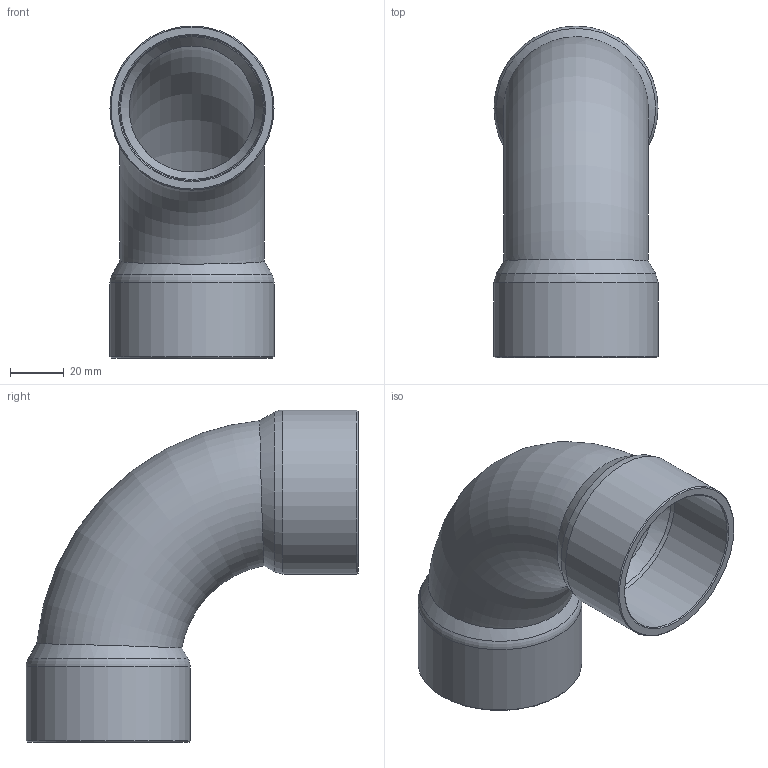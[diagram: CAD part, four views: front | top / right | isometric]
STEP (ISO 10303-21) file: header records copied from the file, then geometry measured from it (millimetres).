
FILE_DESCRIPTION((''),'2;1');
FILE_NAME('G:\SANHA-Ternat\Technik\Management\Bouwmaten + markeringen\z-maattekeningen 3D\29000s\29002A218_3d.stp','2017-07-26T09:03:50',('vdvijverd'),(''),'Autodesk Inventor 2009','Autodesk Inventor 2009','');
FILE_SCHEMA(('AUTOMOTIVE_DESIGN { 1 0 10303 214 1 1 1 1 }'));
Length unit declared in the file: millimetre
Products named in the file (1): 29002A218_3d
Bounding box: 61.26 x 123.93 x 123.93 mm (x, y, z)
Volume: 95568.9 mm3; surface area: 54987.4 mm2
Topology: 1 solids, 1 shells, 20 faces, 38 edges, 20 vertices
Faces by surface type: bspline 8, cone 6, torus 3, cylinder 2, plane 1
Full cylindrical faces by diameter (mm): 54.155 x1, 61.255 x1
Entity records: 746 total; most frequent: CARTESIAN_POINT 416, DIRECTION 58, ORIENTED_EDGE 40, EDGE_LOOP 40, AXIS2_PLACEMENT_3D 29, VERTEX_POINT 20, EDGE_CURVE 20, FACE_OUTER_BOUND 20
